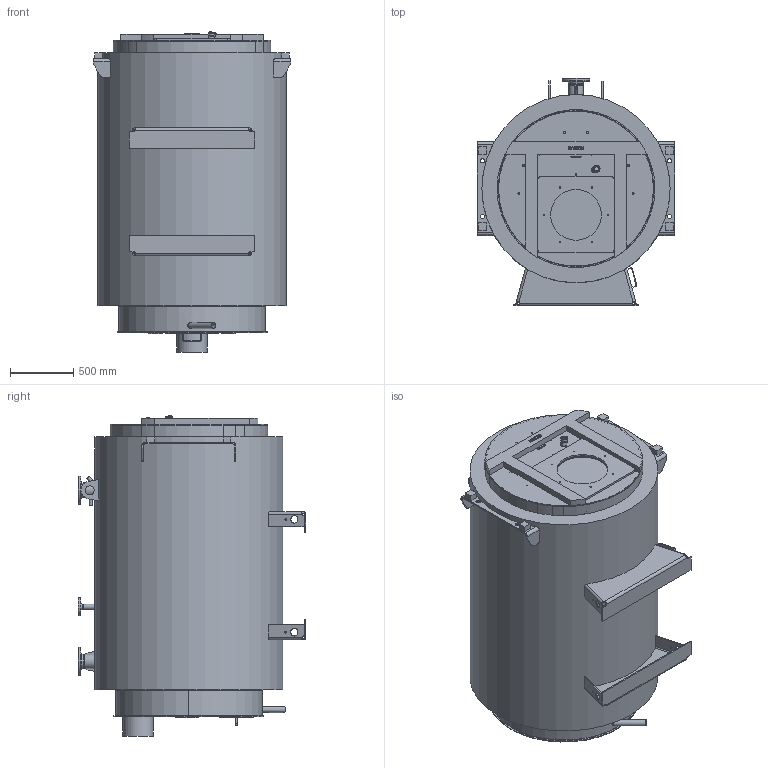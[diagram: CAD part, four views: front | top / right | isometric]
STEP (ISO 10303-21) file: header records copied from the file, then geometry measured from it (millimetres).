
FILE_DESCRIPTION(('TFLEX Exchange Step'),'2;1');
FILE_NAME('M22A002_7951173_H002.stp', '2024-07-31T14:43:36+03:00',('kort'),('Unknown organisation'),'TFLEX Exchange 2024.2','T-FLEX CAD','Unknown authorisation');
FILE_SCHEMA( ('AUTOMOTIVE_DESIGN { 1 0 10303 214 1 1 1 1 }') );
Length unit declared in the file: millimetre
Products named in the file (1): Nodes
Bounding box: 1555 x 1795 x 2526.7 mm (x, y, z)
Volume: 3895531083.7 mm3; surface area: 47455924.8 mm2
Topology: 121 solids, 121 shells, 1282 faces, 3163 edges, 2186 vertices
Faces by surface type: plane 603, cylinder 449, bspline 109, cone 80, torus 37, sphere 4
Full cylindrical faces by diameter (mm): 1 x16, 2.2 x4, 3 x2, 3.2 x4, 3.3 x4, 4 x4, 6.5 x4, 10 x9, 10.11 x6, 10.86 x18, 11.45 x1, 12 x48, 13 x4, 14 x60, 14.63 x6, 15.5 x18, 18 x20, 18.63 x1, 18.9 x1, 22 x6, 26.9 x2, 28.9 x1, 34.4 x1, 35 x7, 37.2 x1, 40 x2, 41.1 x1, 41.9 x1, 42.4 x1, 44.8 x1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
Entity records: 49174 total; most frequent: CARTESIAN_POINT 17452, DIRECTION 6525, ORIENTED_EDGE 6286, EDGE_CURVE 3143, AXIS2_PLACEMENT_3D 2565, VERTEX_POINT 2186, EDGE_LOOP 1631, FACE_BOUND 1631
